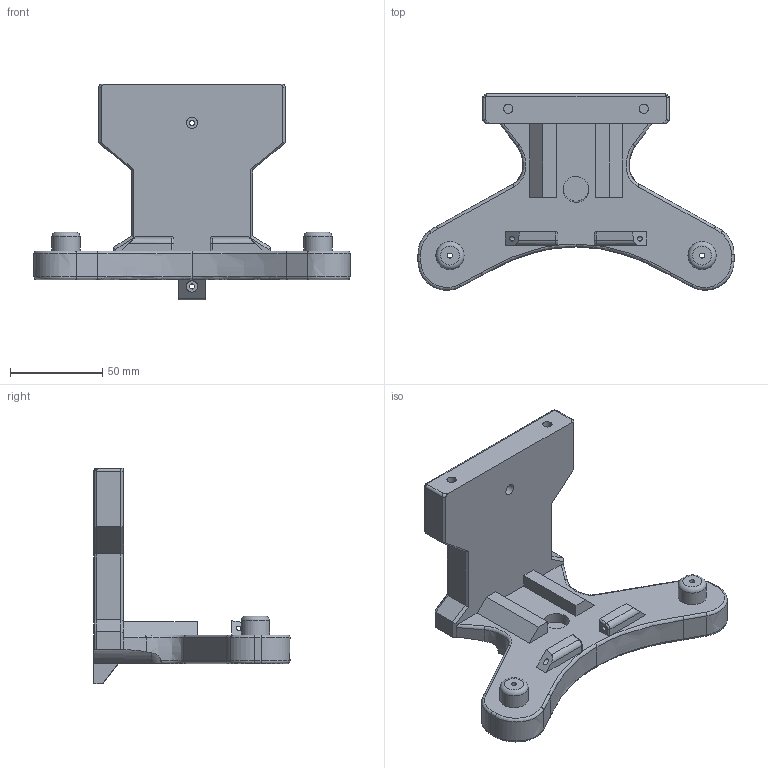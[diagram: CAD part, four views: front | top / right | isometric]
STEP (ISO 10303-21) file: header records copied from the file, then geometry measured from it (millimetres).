
FILE_DESCRIPTION(/* description */ (''),/* implementation_level */ '2;1');
FILE_NAME(/* name */ 'Grip Frame Lower.stp',/* time_stamp */ '2026-08-19T19:57:31-06:00',/* author */ (''),/* organization */ (''),/* preprocessor_version */ 'ST-DEVELOPER v18.102',/* originating_system */ 'SIEMENS PLM Software NX 2027',/* authorisation */ '');
FILE_SCHEMA (('AUTOMOTIVE_DESIGN { 1 0 10303 214 3 1 1 1 }'));
Length unit declared in the file: inch
Products named in the file (1): Grip Frame Lower
Bounding box: 171.73 x 106.62 x 117.1 mm (x, y, z)
Volume: 278861.6 mm3; surface area: 50250 mm2
Topology: 1 solids, 1 shells, 169 faces, 402 edges, 246 vertices
Faces by surface type: plane 67, bspline 40, cylinder 40, extrusion 17, torus 5
Full cylindrical faces by diameter (mm): 2.5 x2, 2.784 x3, 2.785 x1, 5 x2, 6.196 x2, 6.207 x1, 6.209 x1, 15.31 x2
Entity records: 6473 total; most frequent: CARTESIAN_POINT 2974, ORIENTED_EDGE 758, DIRECTION 588, EDGE_CURVE 379, VERTEX_POINT 240, EDGE_LOOP 209, AXIS2_PLACEMENT_3D 201, VECTOR 186
